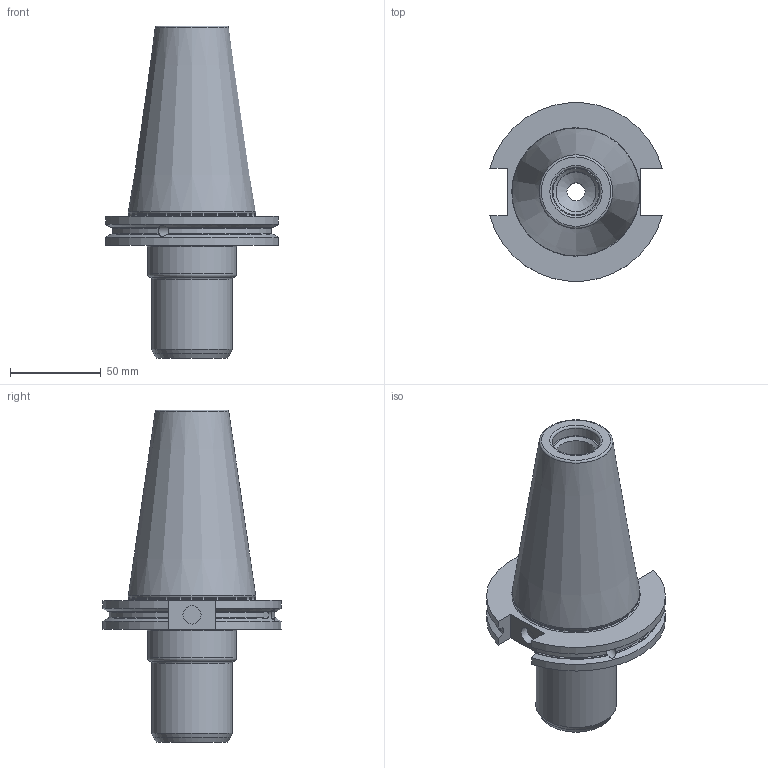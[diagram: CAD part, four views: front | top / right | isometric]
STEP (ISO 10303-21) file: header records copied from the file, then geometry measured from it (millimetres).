
FILE_DESCRIPTION( ( 'STEP AP214' ), '1' );
FILE_NAME( 'X:/Denzer2/tendo_platinum_skg/SCHUNK-1447937 TENDO P CAT50 D3_4x81.stp', '2022-11-09T07:55:38', ( '' ), ( '' ), ' ', 'PARTsolutions', ' ' );
FILE_SCHEMA( ( 'AUTOMOTIVE_DESIGN { 1 0 10303 214 1 1 1 1 }' ) );
Length unit declared in the file: millimetre
Products named in the file (1): _SCHUNK-1447937 TENDO P CAT50 D3/4x81, 50.5
Bounding box: 94.95 x 98.05 x 182.6 mm (x, y, z)
Volume: 416678.1 mm3; surface area: 55830.9 mm2
Topology: 1 solids, 1 shells, 67 faces, 174 edges, 111 vertices
Faces by surface type: plane 22, cylinder 18, torus 15, cone 12
Full cylindrical faces by diameter (mm): 6 x2, 10 x2, 19.05 x1, 21.963 x1, 26.38 x1, 44.45 x1, 49 x1, 69.447 x1
Entity records: 2732 total; most frequent: CARTESIAN_POINT 688, DIRECTION 306, ORIENTED_EDGE 284, EDGE_CURVE 142, AXIS2_PLACEMENT_3D 130, VERTEX_POINT 104, EDGE_LOOP 100, FACE_OUTER_BOUND 84
